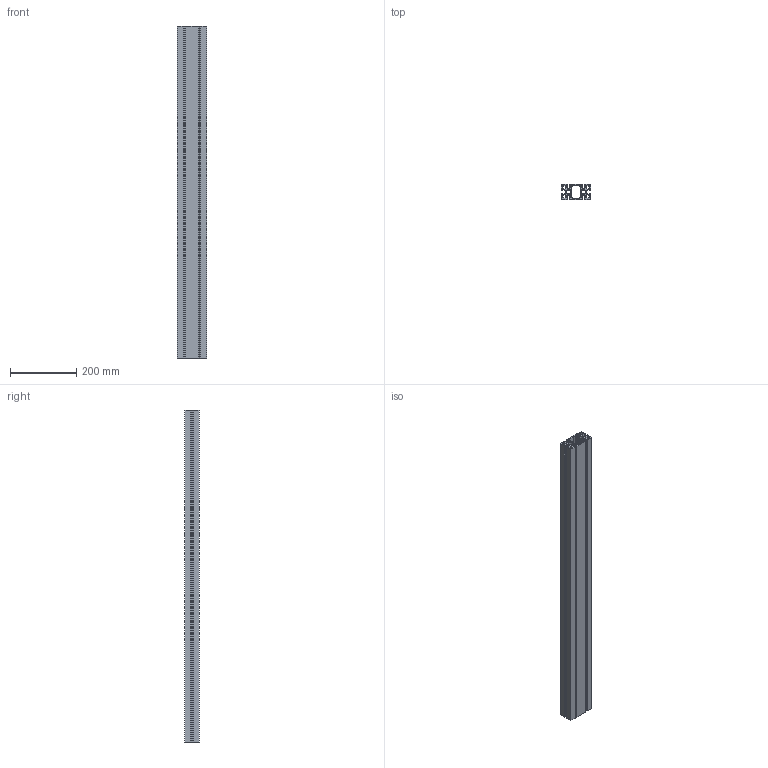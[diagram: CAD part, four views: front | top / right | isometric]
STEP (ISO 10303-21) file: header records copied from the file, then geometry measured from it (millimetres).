
FILE_DESCRIPTION(/* description */ (''),/* implementation_level */ '2;1');
FILE_NAME(/* name */ 'C:\Users\AMS43\Documents\Inventor\AMS\misumi\\X2\30D530EC30FC30E0\X0\_ipt\フレーム_stp\AFS-4590B-8.ipt.stp',/* time_stamp */ '2016-10-06T11:44:14+09:00',/* author */ ('AMS43'),/* organization */ (''),/* preprocessor_version */ 'ST-DEVELOPER v15.2',/* originating_system */ 'Autodesk Inventor 2014',/* authorisation */ '');
FILE_SCHEMA (('AUTOMOTIVE_DESIGN { 1 0 10303 214 3 1 1 }'));
Length unit declared in the file: metre
Products named in the file (1): AFS-4590B-8
Bounding box: 90 x 45 x 1000 mm (x, y, z)
Volume: 1414871.1 mm3; surface area: 860155.9 mm2
Topology: 1 solids, 1 shells, 176 faces, 522 edges, 348 vertices
Faces by surface type: plane 113, cylinder 63
Full cylindrical faces by diameter (mm): 12.5 x2
Entity records: 5941 total; most frequent: CARTESIAN_POINT 1045, ORIENTED_EDGE 1040, DIRECTION 1000, EDGE_CURVE 520, LINE 394, VECTOR 394, VERTEX_POINT 348, AXIS2_PLACEMENT_3D 303
